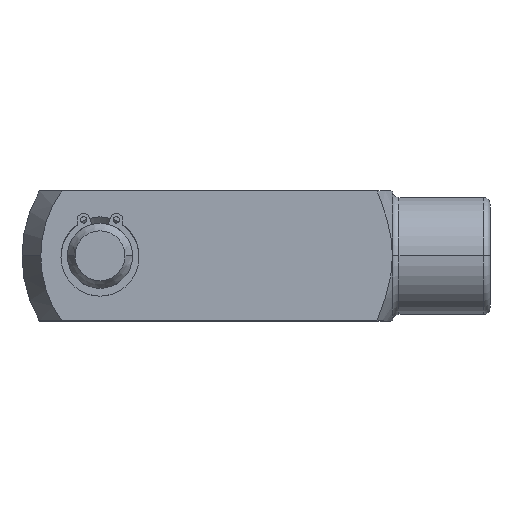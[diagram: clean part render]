
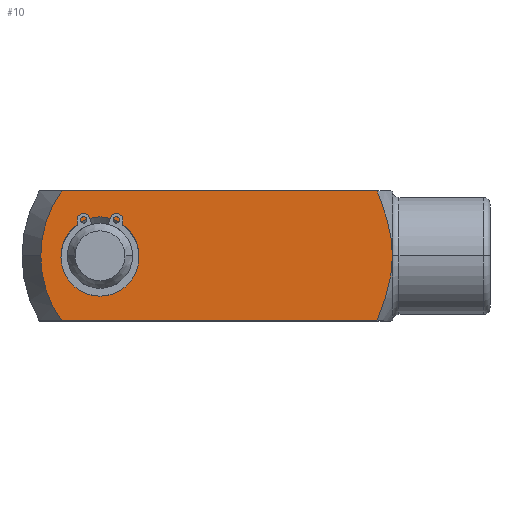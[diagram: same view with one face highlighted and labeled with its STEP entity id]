
A CAD part, top view. The second image highlights one B-rep face of the part: STEP entity #10.
In plain terms, the highlighted planar face has unit normal (0, 0, 1).
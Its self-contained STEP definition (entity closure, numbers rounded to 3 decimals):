
#1 = VERTEX_POINT ( 'NONE', #27 ) ;
#2 = ORIENTED_EDGE ( 'NONE', *, *, #26, .T. ) ;
#3 = ORIENTED_EDGE ( 'NONE', *, *, #360, .T. ) ;
#4 = EDGE_CURVE ( 'NONE', #338, #391, #588, .T. ) ;
#5 = VERTEX_POINT ( 'NONE', #583 ) ;
#6 = ORIENTED_EDGE ( 'NONE', *, *, #4, .T. ) ;
#8 = ORIENTED_EDGE ( 'NONE', *, *, #15, .T. ) ;
#9 = ORIENTED_EDGE ( 'NONE', *, *, #393, .T. ) ;
#10 = ADVANCED_FACE ( 'NONE', ( #578, #577 ), #576, .T. ) ;
#15 = EDGE_CURVE ( 'NONE', #5, #359, #564, .T. ) ;
#24 = VERTEX_POINT ( 'NONE', #614 ) ;
#25 = EDGE_CURVE ( 'NONE', #5, #24, #613, .T. ) ;
#26 = EDGE_CURVE ( 'NONE', #358, #1, #609, .T. ) ;
#27 = CARTESIAN_POINT ( 'NONE',  ( -8.696, -5., 5. ) ) ;
#338 = VERTEX_POINT ( 'NONE', #1091 ) ;
#358 = VERTEX_POINT ( 'NONE', #1177 ) ;
#359 = VERTEX_POINT ( 'NONE', #1176 ) ;
#360 = EDGE_CURVE ( 'NONE', #359, #358, #1175, .T. ) ;
#391 = VERTEX_POINT ( 'NONE', #1181 ) ;
#393 = EDGE_CURVE ( 'NONE', #391, #338, #1232, .T. ) ;
#485 = VERTEX_POINT ( 'NONE', #1392 ) ;
#517 = EDGE_CURVE ( 'NONE', #485, #1, #1503, .T. ) ;
#518 = ORIENTED_EDGE ( 'NONE', *, *, #519, .F. ) ;
#519 = EDGE_CURVE ( 'NONE', #24, #485, #1496, .T. ) ;
#560 = DIRECTION ( 'NONE',  ( 1., 0., 0. ) ) ;
#561 = DIRECTION ( 'NONE',  ( 0., 0., 1. ) ) ;
#562 = CARTESIAN_POINT ( 'NONE',  ( -26., 0., 5. ) ) ;
#563 = AXIS2_PLACEMENT_3D ( 'NONE', #562, #561, #560 ) ;
#564 = CIRCLE ( 'NONE', #563, 8.557 ) ;
#571 = DIRECTION ( 'NONE',  ( 1., 0., 0. ) ) ;
#572 = DIRECTION ( 'NONE',  ( 0., 0., 1. ) ) ;
#573 = CARTESIAN_POINT ( 'NONE',  ( -36., -5., 5. ) ) ;
#575 = AXIS2_PLACEMENT_3D ( 'NONE', #573, #572, #571 ) ;
#576 = PLANE ( 'NONE',  #575 ) ;
#577 = FACE_OUTER_BOUND ( 'NONE', #2683, .T. ) ;
#578 = FACE_BOUND ( 'NONE', #2681, .T. ) ;
#583 = CARTESIAN_POINT ( 'NONE',  ( -32.944, 5., 5. ) ) ;
#584 = DIRECTION ( 'NONE',  ( 1., 0., 0. ) ) ;
#585 = DIRECTION ( 'NONE',  ( 0., 0., -1. ) ) ;
#586 = CARTESIAN_POINT ( 'NONE',  ( -30., 0., 5. ) ) ;
#587 = AXIS2_PLACEMENT_3D ( 'NONE', #586, #585, #584 ) ;
#588 = CIRCLE ( 'NONE', #587, 3. ) ;
#606 = DIRECTION ( 'NONE',  ( 1., 0., 0. ) ) ;
#607 = VECTOR ( 'NONE', #606, 1000. ) ;
#608 = CARTESIAN_POINT ( 'NONE',  ( -36., -5., 5. ) ) ;
#609 = LINE ( 'NONE', #608, #607 ) ;
#610 = DIRECTION ( 'NONE',  ( 1., 0., 0. ) ) ;
#611 = VECTOR ( 'NONE', #610, 1000. ) ;
#612 = CARTESIAN_POINT ( 'NONE',  ( -36., 5., 5. ) ) ;
#613 = LINE ( 'NONE', #612, #611 ) ;
#614 = CARTESIAN_POINT ( 'NONE',  ( -8.696, 5., 5. ) ) ;
#1091 = CARTESIAN_POINT ( 'NONE',  ( -33., 0., 5. ) ) ;
#1171 = DIRECTION ( 'NONE',  ( 1., 0., 0. ) ) ;
#1172 = DIRECTION ( 'NONE',  ( 0., 0., 1. ) ) ;
#1173 = CARTESIAN_POINT ( 'NONE',  ( -26., 0., 5. ) ) ;
#1174 = AXIS2_PLACEMENT_3D ( 'NONE', #1173, #1172, #1171 ) ;
#1175 = CIRCLE ( 'NONE', #1174, 8.557 ) ;
#1176 = CARTESIAN_POINT ( 'NONE',  ( -34.557, 0., 5. ) ) ;
#1177 = CARTESIAN_POINT ( 'NONE',  ( -32.944, -5., 5. ) ) ;
#1181 = CARTESIAN_POINT ( 'NONE',  ( -27., 0., 5. ) ) ;
#1228 = DIRECTION ( 'NONE',  ( 1., 0., 0. ) ) ;
#1229 = DIRECTION ( 'NONE',  ( 0., 0., -1. ) ) ;
#1230 = CARTESIAN_POINT ( 'NONE',  ( -30., 0., 5. ) ) ;
#1231 = AXIS2_PLACEMENT_3D ( 'NONE', #1230, #1229, #1228 ) ;
#1232 = CIRCLE ( 'NONE', #1231, 3. ) ;
#1392 = CARTESIAN_POINT ( 'NONE',  ( -7.5, 0., 5. ) ) ;
#1483 = CARTESIAN_POINT ( 'NONE',  ( -7.5, 0., 5. ) ) ;
#1484 = CARTESIAN_POINT ( 'NONE',  ( -7.5, 0.217, 5. ) ) ;
#1485 = CARTESIAN_POINT ( 'NONE',  ( -7.508, 0.436, 5. ) ) ;
#1486 = CARTESIAN_POINT ( 'NONE',  ( -7.541, 0.867, 5. ) ) ;
#1487 = CARTESIAN_POINT ( 'NONE',  ( -7.564, 1.082, 5. ) ) ;
#1488 = CARTESIAN_POINT ( 'NONE',  ( -7.657, 1.72, 5. ) ) ;
#1489 = CARTESIAN_POINT ( 'NONE',  ( -7.746, 2.139, 5. ) ) ;
#1490 = CARTESIAN_POINT ( 'NONE',  ( -8.073, 3.385, 5. ) ) ;
#1491 = CARTESIAN_POINT ( 'NONE',  ( -8.37, 4.202, 5. ) ) ;
#1492 = CARTESIAN_POINT ( 'NONE',  ( -8.696, 5., 5. ) ) ;
#1496 = B_SPLINE_CURVE_WITH_KNOTS ( 'NONE', 3,
 ( #1492, #1491, #1490, #1489, #1488, #1487, #1486, #1485, #1484, #1483 ),
 .UNSPECIFIED., .F., .F.,
 ( 4, 2, 2, 2, 4 ),
 ( 0.015, 0.018, 0.019, 0.02, 0.02 ),
 .UNSPECIFIED. ) ;
#1497 = CARTESIAN_POINT ( 'NONE',  ( -8.696, -5., 5. ) ) ;
#1498 = CARTESIAN_POINT ( 'NONE',  ( -8.369, -4.199, 5. ) ) ;
#1499 = CARTESIAN_POINT ( 'NONE',  ( -8.072, -3.381, 5. ) ) ;
#1500 = CARTESIAN_POINT ( 'NONE',  ( -7.636, -1.719, 5. ) ) ;
#1501 = CARTESIAN_POINT ( 'NONE',  ( -7.5, -0.873, 5. ) ) ;
#1502 = CARTESIAN_POINT ( 'NONE',  ( -7.5, 0., 5. ) ) ;
#1503 = B_SPLINE_CURVE_WITH_KNOTS ( 'NONE', 3,
 ( #1502, #1501, #1500, #1499, #1498, #1497 ),
 .UNSPECIFIED., .F., .F.,
 ( 4, 2, 4 ),
 ( 0.02, 0.023, 0.025 ),
 .UNSPECIFIED. ) ;
#2681 = EDGE_LOOP ( 'NONE', ( #9, #6 ) ) ;
#2683 = EDGE_LOOP ( 'NONE', ( #2745, #8, #3, #2, #2686, #518 ) ) ;
#2686 = ORIENTED_EDGE ( 'NONE', *, *, #517, .F. ) ;
#2745 = ORIENTED_EDGE ( 'NONE', *, *, #25, .F. ) ;
